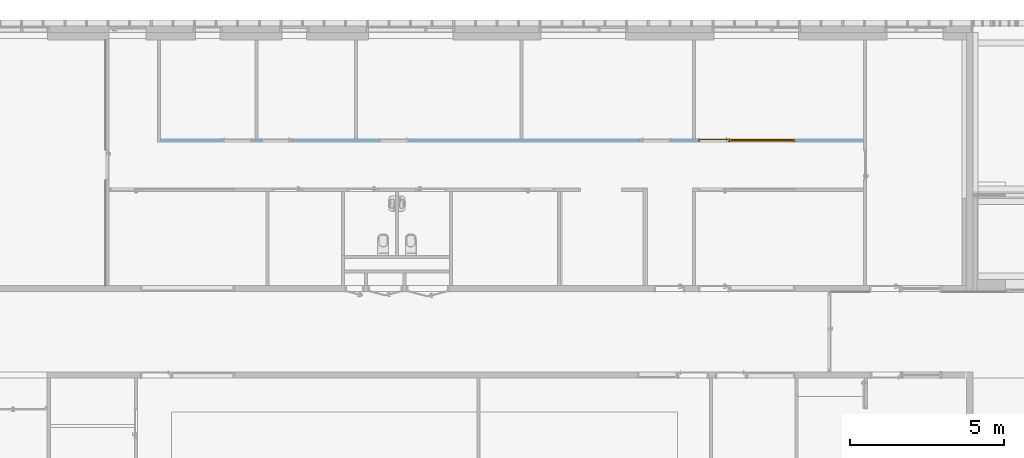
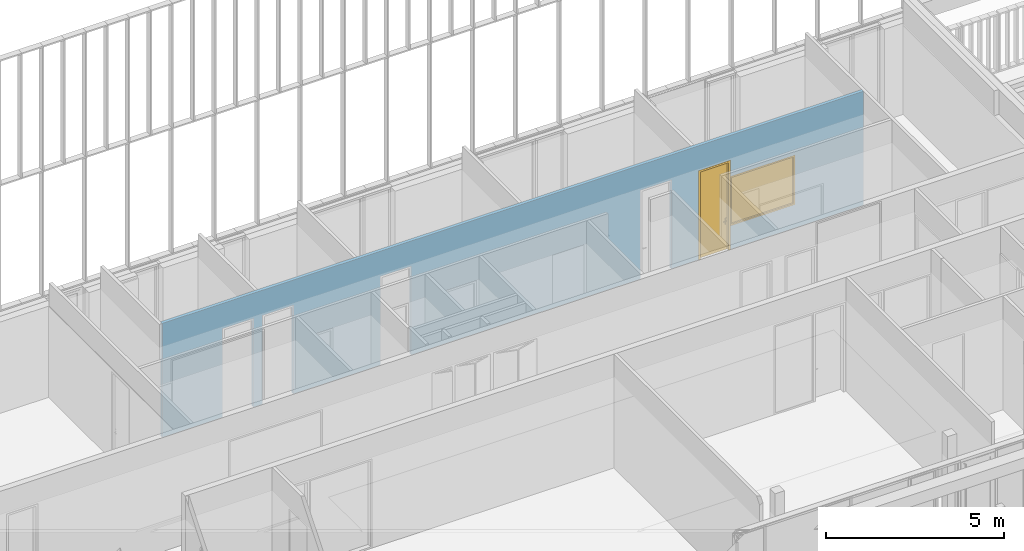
# One storey, part 155 of 240: 1 door, 1 window, 6 openings, plus 1 element that does not belong to this part.
"""IFC2X3 building model written with IfcOpenShell, lengths in centimetres."""

import ifcopenshell
import ifcopenshell.guid

model = None  # the IFC model being written
_history = None  # IfcOwnerHistory: only IFC2X3 demands one
_inside = {}  # id of a spatial element -> (the spatial element, [elements in it])
_under = {}  # id of a project, library or spatial element -> (it, [spatial elements below it])
_declared = {}  # id of a project -> (the project, [libraries it declares])
_typed = {}  # id of a type object -> (the type object, [elements of that type])
_made_of = {}  # id of a material, layer set ... -> (it, [elements and type objects made of it])


def new_model(schema):
    """Start an empty IFC model of exactly this schema.

    Asked for "IFC4X3", IfcOpenShell would pick the latest addendum, in which some entities
    have other attributes; the version numbers below select the first issue.
    IFC2X3 requires an IfcOwnerHistory on every rooted entity: one is made here for all.
    """
    global model, _history
    if schema == "IFC4X3":
        model = ifcopenshell.file(schema_version=(4, 3, 0, 0))
    else:
        model = ifcopenshell.file(schema=schema)
    _inside.clear()
    _under.clear()
    _declared.clear()
    _typed.clear()
    _made_of.clear()
    _history = None
    if model.schema == "IFC2X3":
        org = make("IfcOrganization", Name="unknown")
        user = make(
            "IfcPersonAndOrganization",
            ThePerson=make("IfcPerson", FamilyName="unknown"),
            TheOrganization=org,
        )
        app = make(
            "IfcApplication",
            ApplicationDeveloper=org,
            Version="unknown",
            ApplicationFullName="unknown",
            ApplicationIdentifier="unknown",
        )
        _history = make(
            "IfcOwnerHistory",
            OwningUser=user,
            OwningApplication=app,
            ChangeAction="ADDED",
            CreationDate=0,
        )
    return model


def make(cls, **values):
    """One entity of the class cls with the attributes given. An attribute that is None is left unset."""
    return model.create_entity(
        cls, **{name: value for name, value in values.items() if value is not None}
    )


def entity(cls, *values):
    """Any entity or typed value of the class cls, its attributes in the order of the schema. None: left unset."""
    e = model.create_entity(cls)
    for i, value in enumerate(values):
        if value is not None:
            e[i] = value
    return e


def rooted(cls, **values):
    """An entity with a GlobalId (a new one), such as an element, a storey or a relation."""
    return make(cls, GlobalId=ifcopenshell.guid.new(), OwnerHistory=_history, **values)


def si_unit(unit_type, name, prefix=None):
    """IfcSIUnit, for example si_unit("LENGTHUNIT", "METRE", prefix="MILLI")."""
    return make("IfcSIUnit", UnitType=unit_type, Prefix=prefix, Name=name)


def converted_unit(unit_type, name, factor, base, dimensions=None, offset=None):
    """IfcConversionBasedUnit, such as the inch: factor (a typed value) times the base unit."""
    return make(
        "IfcConversionBasedUnit"
        if offset is None
        else "IfcConversionBasedUnitWithOffset",
        ConversionOffset=offset,
        Dimensions=None
        if dimensions is None
        else entity("IfcDimensionalExponents", *dimensions),
        UnitType=unit_type,
        Name=name,
        ConversionFactor=make(
            "IfcMeasureWithUnit", ValueComponent=factor, UnitComponent=base
        ),
    )


def derived_unit(unit_type, elements):
    """IfcDerivedUnit: a product of units, each with its exponent."""
    return make(
        "IfcDerivedUnit",
        Elements=[
            make("IfcDerivedUnitElement", Unit=unit, Exponent=power)
            for unit, power in elements
        ],
        UnitType=unit_type,
    )


def assignment(units):
    """IfcUnitAssignment: the units of a project."""
    return None if units is None else make("IfcUnitAssignment", Units=units)


def point(xyz):
    """IfcCartesianPoint."""
    return None if xyz is None else make("IfcCartesianPoint", Coordinates=xyz)


def direction(xyz):
    """IfcDirection."""
    return None if xyz is None else make("IfcDirection", DirectionRatios=xyz)


def frame(location, z_axis=None, x_axis=None):
    """IfcAxis2Placement3D, a coordinate frame: its origin and axes. An axis left out is left unset."""
    return make(
        "IfcAxis2Placement3D",
        Location=point(location),
        Axis=direction(z_axis),
        RefDirection=direction(x_axis),
    )


def frame_2d(location, x_axis=None):
    """IfcAxis2Placement2D, a coordinate frame in the plane: its origin and x axis."""
    return make(
        "IfcAxis2Placement2D", Location=point(location), RefDirection=direction(x_axis)
    )


def origin():
    """The frame at (0, 0, 0) with its axes left unset."""
    return frame((0.0, 0.0, 0.0))


def place(relative_to, where):
    """IfcLocalPlacement: puts the frame where relative to a parent placement (None: the world)."""
    return make(
        "IfcLocalPlacement", PlacementRelTo=relative_to, RelativePlacement=where
    )


def context(
    kind, dimensions, precision=None, world=None, true_north=None, identifier=None
):
    """IfcGeometricRepresentationContext, for example the 3D "Model" context."""
    return make(
        "IfcGeometricRepresentationContext",
        ContextIdentifier=identifier,
        ContextType=kind,
        CoordinateSpaceDimension=dimensions,
        Precision=precision,
        WorldCoordinateSystem=world,
        TrueNorth=true_north,
    )


def subcontext(parent, identifier, kind, view, scale=None):
    """IfcGeometricRepresentationSubContext, for example "Body" below "Model"."""
    return make(
        "IfcGeometricRepresentationSubContext",
        ContextIdentifier=identifier,
        ContextType=kind,
        ParentContext=parent,
        TargetScale=scale,
        TargetView=view,
    )


def project(units=None, contexts=None):
    """IfcProject with its units and contexts."""
    return rooted(
        "IfcProject",
        Name="project",
        RepresentationContexts=contexts,
        UnitsInContext=assignment(units),
    )


def spatial(cls, under=None, at=None, **own):
    """A site, building, storey or space (cls), placed at a placement, below another one or the project."""
    s = rooted(cls, ObjectPlacement=at, **own)
    if under is not None:
        _under.setdefault(under.id(), (under, []))[1].append(s)
    return s


def polyline(points):
    """IfcPolyline through the points."""
    return make("IfcPolyline", Points=[point(p) for p in points])


def profile(cls, at=None, kind="AREA", **sizes):
    """A parametric profile (cls). Its sizes go by their IFC names, for example OverallWidth=200.0."""
    return make(cls, ProfileType=kind, Position=at, **sizes)


def rectangle(**sizes):
    """IfcRectangleProfileDef."""
    return profile("IfcRectangleProfileDef", **sizes)


def extrude(swept, where, along, depth):
    """IfcExtrudedAreaSolid: the profile swept, set in the frame where, extruded along a direction by depth."""
    return make(
        "IfcExtrudedAreaSolid",
        SweptArea=swept,
        Position=where,
        ExtrudedDirection=direction(along),
        Depth=depth,
    )


def clip(a, b, op="DIFFERENCE"):
    """IfcBooleanClippingResult: the solid a cut by the half space b."""
    return make(
        "IfcBooleanClippingResult", Operator=op, FirstOperand=a, SecondOperand=b
    )


def bounded_halfspace(plane, agree, where, boundary):
    """IfcPolygonalBoundedHalfSpace: a half space limited to a polygon's prism."""
    return make(
        "IfcPolygonalBoundedHalfSpace",
        BaseSurface=make("IfcPlane", Position=plane),
        AgreementFlag=agree,
        Position=where,
        PolygonalBoundary=boundary,
    )


def faces_of(points, faces, orient=None, outer=None):
    """IfcFace entities. A face is a list of loops; a loop is a list of indices into points, from 0.

    orient and outer hold one flag for each loop. By default every Orientation is true, the
    first loop of a face is its IfcFaceOuterBound and the others are IfcFaceBound.
    """
    made = []
    for i, loops in enumerate(faces):
        bounds = []
        for j, loop in enumerate(loops):
            is_outer = j == 0 if outer is None else outer[i][j]
            bounds.append(
                make(
                    "IfcFaceOuterBound" if is_outer else "IfcFaceBound",
                    Bound=make("IfcPolyLoop", Polygon=[points[k] for k in loop]),
                    Orientation=True if orient is None else orient[i][j],
                )
            )
        made.append(make("IfcFace", Bounds=bounds))
    return made


def faceted_brep(points, faces, orient=None, outer=None, voids=None):
    """IfcFacetedBrep: a solid bounded by flat faces; with voids (closed shells), ...WithVoids."""
    shared = [point(p) for p in points]
    hull = make("IfcClosedShell", CfsFaces=faces_of(shared, faces, orient, outer))
    if voids is None:
        return make("IfcFacetedBrep", Outer=hull)
    return make(
        "IfcFacetedBrepWithVoids",
        Outer=hull,
        Voids=[
            make(cls, CfsFaces=faces_of(shared, fs, o, b)) for cls, fs, o, b in voids
        ],
    )


def shape(context_of_items, identifier, shape_type, items):
    """IfcShapeRepresentation: the items that make up one representation, for example the "Body"."""
    return make(
        "IfcShapeRepresentation",
        ContextOfItems=context_of_items,
        RepresentationIdentifier=identifier,
        RepresentationType=shape_type,
        Items=items,
    )


def source(mapping_origin, context_of_items, identifier, shape_type, items):
    """IfcRepresentationMap: a shape defined once, which mapped items show again and again."""
    return make(
        "IfcRepresentationMap",
        MappingOrigin=mapping_origin,
        MappedRepresentation=shape(context_of_items, identifier, shape_type, items),
    )


def transform(
    local_origin,
    x_axis=None,
    y_axis=None,
    z_axis=None,
    scale=None,
    scale2=None,
    scale3=None,
    uniform=True,
):
    """IfcCartesianTransformationOperator3D, or its non-uniform kind. x_axis, y_axis, z_axis: its Axis1, 2, 3."""
    if uniform:
        return make(
            "IfcCartesianTransformationOperator3D",
            Axis1=direction(x_axis),
            Axis2=direction(y_axis),
            LocalOrigin=point(local_origin),
            Scale=scale,
            Axis3=direction(z_axis),
        )
    return make(
        "IfcCartesianTransformationOperator3DnonUniform",
        Axis1=direction(x_axis),
        Axis2=direction(y_axis),
        LocalOrigin=point(local_origin),
        Scale=scale,
        Axis3=direction(z_axis),
        Scale2=scale2,
        Scale3=scale3,
    )


def mapped(mapping_source, mapping_target):
    """IfcMappedItem: shows the shape of a source again, moved by a transform."""
    return make(
        "IfcMappedItem", MappingSource=mapping_source, MappingTarget=mapping_target
    )


def material(Name=None, Category=None):
    """IfcMaterial."""
    return make("IfcMaterial", Name=Name, Category=Category)


def material_list(materials):
    """IfcMaterialList."""
    return make("IfcMaterialList", Materials=materials)


def layer(
    of_material, thickness, ventilated=None, Name=None, Category=None, Priority=None
):
    """IfcMaterialLayer: one layer of a wall or slab, of a material (None: an air gap)."""
    return make(
        "IfcMaterialLayer",
        Material=of_material,
        LayerThickness=thickness,
        IsVentilated=ventilated,
        Name=Name,
        Category=Category,
        Priority=Priority,
    )


def layer_set(layers, Name=None):
    """IfcMaterialLayerSet."""
    return make("IfcMaterialLayerSet", MaterialLayers=layers, LayerSetName=Name)


def layer_usage(for_layer_set, set_direction, sense, offset, extent=None):
    """IfcMaterialLayerSetUsage: how a layer set lies in its element."""
    return make(
        "IfcMaterialLayerSetUsage",
        ForLayerSet=for_layer_set,
        LayerSetDirection=set_direction,
        DirectionSense=sense,
        OffsetFromReferenceLine=offset,
        ReferenceExtent=extent,
    )


def made_of(thing, what):
    """Note that an element or type object is made of a material, layer set ...; save() writes the relation."""
    if what is not None:
        _made_of.setdefault(what.id(), (what, []))[1].append(thing)
    return thing


def type_object(cls, material=None, **own):
    """A type object (cls), such as IfcWallType, which elements share."""
    return made_of(rooted(cls, **own), material)


def type_shapes(of_type, sources):
    """Give a type object the sources (RepresentationMaps) that its elements show as mapped items."""
    of_type.RepresentationMaps = sources


def element(
    cls,
    number,
    at=None,
    inside=None,
    cuts=None,
    type_object=None,
    material=None,
    context=None,
    identifier="Body",
    shape_type=None,
    held_by="IfcProductDefinitionShape",
    body=None,
    shapes=None,
    **own,
):
    """One element of the class cls, such as IfcWall. Its Tag is "e" and its number.

    at: its placement. inside: the storey or other place that contains it. cuts: it is an
    opening in that element (IfcRelVoidsElement). A single representation is given by context,
    identifier, shape_type and body (its items); several are given by shapes. held_by: the class
    of the entity that holds the representations. save() writes the other relations.
    """
    e = rooted(cls, Tag="e%d" % number, ObjectPlacement=at, **own)
    if body is not None:
        shapes = [shape(context, identifier, shape_type, body)]
    if shapes is not None:
        e.Representation = make(held_by, Representations=shapes)
    if inside is not None:
        _inside.setdefault(inside.id(), (inside, []))[1].append(e)
    if cuts is not None:
        rooted(
            "IfcRelVoidsElement", RelatingBuildingElement=cuts, RelatedOpeningElement=e
        )
    if type_object is not None:
        _typed.setdefault(type_object.id(), (type_object, []))[1].append(e)
    return made_of(e, material)


def fill(opening, filler):
    """IfcRelFillsElement: the door or window that sits in an opening."""
    return rooted(
        "IfcRelFillsElement",
        RelatingOpeningElement=opening,
        RelatedBuildingElement=filler,
    )


def aggregate(whole, parts):
    """IfcRelAggregates: a whole, such as a stair, and the parts it consists of."""
    return rooted("IfcRelAggregates", RelatingObject=whole, RelatedObjects=parts)


def save(model, path):
    """Write the relations noted so far, then the file.

    IfcRelAggregates (storeys below a building ...), IfcRelContainedInSpatialStructure (elements
    in a storey), IfcRelDefinesByType, IfcRelAssociatesMaterial and IfcRelDeclares: one each for
    every whole, place, type object, material and project.
    """
    for whole, parts in _under.values():
        aggregate(whole, parts)
    for where, things in _inside.values():
        rooted(
            "IfcRelContainedInSpatialStructure",
            RelatedElements=things,
            RelatingStructure=where,
        )
    for kind, things in _typed.values():
        rooted("IfcRelDefinesByType", RelatedObjects=things, RelatingType=kind)
    for what, things in _made_of.values():
        rooted("IfcRelAssociatesMaterial", RelatedObjects=things, RelatingMaterial=what)
    for by, libraries in _declared.values():
        rooted("IfcRelDeclares", RelatingContext=by, RelatedDefinitions=libraries)
    model.write(path)


model = new_model("IFC2X3")

# Units and contexts
model_context = context("Model", 3, precision=0.001, world=origin(), true_north=direction((6.12303176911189e-17, 1.0)))
body_context = subcontext(model_context, "Body", "Model", "MODEL_VIEW")
ifc_project = project(units=[si_unit("LENGTHUNIT", "METRE", prefix="CENTI"), si_unit("AREAUNIT", "SQUARE_METRE"), si_unit("VOLUMEUNIT", "CUBIC_METRE"), converted_unit("PLANEANGLEUNIT", "DEGREE", entity("IfcRatioMeasure", 0.0174532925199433), si_unit("PLANEANGLEUNIT", "RADIAN"), dimensions=[0, 0, 0, 0, 0, 0, 0]), si_unit("MASSUNIT", "GRAM", prefix="KILO"), derived_unit("MASSDENSITYUNIT", [(si_unit("MASSUNIT", "GRAM", prefix="KILO"), 1), (si_unit("LENGTHUNIT", "METRE"), -3)]), si_unit("TIMEUNIT", "SECOND"), si_unit("FREQUENCYUNIT", "HERTZ"), si_unit("THERMODYNAMICTEMPERATUREUNIT", "DEGREE_CELSIUS"), derived_unit("THERMALTRANSMITTANCEUNIT", [(si_unit("MASSUNIT", "GRAM", prefix="KILO"), 1), (si_unit("THERMODYNAMICTEMPERATUREUNIT", "KELVIN"), -1), (si_unit("TIMEUNIT", "SECOND"), -3)]), derived_unit("VOLUMETRICFLOWRATEUNIT", [(si_unit("LENGTHUNIT", "METRE"), 3), (si_unit("TIMEUNIT", "SECOND"), -1)]), si_unit("ELECTRICCURRENTUNIT", "AMPERE"), si_unit("ELECTRICVOLTAGEUNIT", "VOLT"), si_unit("POWERUNIT", "WATT"), si_unit("FORCEUNIT", "NEWTON", prefix="KILO"), si_unit("ILLUMINANCEUNIT", "LUX"), si_unit("LUMINOUSFLUXUNIT", "LUMEN"), si_unit("LUMINOUSINTENSITYUNIT", "CANDELA"), derived_unit("USERDEFINED", [(si_unit("MASSUNIT", "GRAM", prefix="KILO"), -1), (si_unit("LENGTHUNIT", "METRE"), -2), (si_unit("TIMEUNIT", "SECOND"), 3), (si_unit("LUMINOUSFLUXUNIT", "LUMEN"), 1)]), derived_unit("LINEARVELOCITYUNIT", [(si_unit("LENGTHUNIT", "METRE"), 1), (si_unit("TIMEUNIT", "SECOND"), -1)]), si_unit("PRESSUREUNIT", "PASCAL"), derived_unit("USERDEFINED", [(si_unit("LENGTHUNIT", "METRE"), -2), (si_unit("MASSUNIT", "GRAM", prefix="KILO"), 1), (si_unit("TIMEUNIT", "SECOND"), -2)])], contexts=[model_context])

# Site, building, storey
site_placement = place(None, frame((-2781.94577612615, 7442.24238424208, 0.0)))
site = spatial("IfcSite", under=ifc_project, at=site_placement, Name="Default", CompositionType="ELEMENT")
building_placement = place(site_placement, origin())
building = spatial("IfcBuilding", under=site, at=building_placement, CompositionType="ELEMENT")
storey_placement = place(building_placement, origin())
storey = spatial("IfcBuildingStorey", under=building, at=storey_placement, Name="N00 - COO", CompositionType="ELEMENT", Elevation=0.0)

# Wall, openings, door, window
ifc_material_1 = material(Name="01 - Enduit/Plâtre")
ifc_layer_1 = layer(ifc_material_1, 1.3)
ifc_material_2 = material(Name="00 - Isolant")
ifc_layer_2 = layer(ifc_material_2, 7.4)
ifc_layer_3 = layer(ifc_material_1, 1.3)
ifc_layer_set = layer_set([ifc_layer_1, ifc_layer_2, ifc_layer_3], Name="Mur de base:06 - cloisons - Ba13 10cm")
ifc_layer_usage = layer_usage(ifc_layer_set, "AXIS2", "NEGATIVE", 5.0)
wall_type = type_object("IfcWallType", Name="Mur de base:06 - cloisons - Ba13 10cm", PredefinedType="STANDARD", material=ifc_layer_set)
wall_placement = place(building_placement, frame((-5122.49987760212, -340.0, 0.0), z_axis=(0.0, 0.0, 1.0), x_axis=(-1.0, 0.0, 0.0)))
wall = element("IfcWallStandardCase", 1, at=wall_placement, inside=storey, type_object=wall_type, material=ifc_layer_usage, Name="Mur de base:06 - cloisons - Ba13 10cm", ObjectType="Mur de base:06 - cloisons - Ba13 10cm", context=body_context, shape_type="Clipping", body=[
    clip(extrude(rectangle(XDim=2276.75, YDim=10.0, at=frame_2d((1138.375, -3.5527136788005e-15), x_axis=(-1.0, 0.0))), origin(), (0.0, 0.0, 1.0), 391.0), bounded_halfspace(frame((0.0, -5.0, 391.0), z_axis=(0.0, 0.0, -1.0), x_axis=(0.0, -1.0, 0.0)), True, frame((0.0, -5.0, 391.0)), polyline([(0.0, 0.0), (544.0, 0.0), (554.0, 0.0), (1103.0, 0.0), (1113.0, 0.0), (1639.0, 0.0), (1649.0, 0.0), (1961.0, 0.0), (1971.0, 0.0), (2276.75, 0.0), (2276.75, 10.0), (0.0, 10.0), (0.0, 0.0)]))),
])
opening_1_placement = place(wall_placement, frame((2081.0, 5.0, 0.0)))
element("IfcOpeningElement", 2, at=opening_1_placement, cuts=wall, Name="Int. Simple:PV (0.93m x 3.00m):1", ObjectType="Opening", context=body_context, shape_type="SweptSolid", body=[
    extrude(rectangle(XDim=304.500000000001, YDim=99.9999999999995, at=frame_2d((152.250000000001, 49.9999999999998), x_axis=(1.0, 0.0))), frame((0.0, 0.0, 0.0), z_axis=(0.0, -1.0, 0.0), x_axis=(0.0, 0.0, 1.0)), (0.0, 0.0, 1.0), 10.0),
])
opening_2_placement = place(wall_placement, frame((1951.0, 5.0, 0.0)))
element("IfcOpeningElement", 3, at=opening_2_placement, cuts=wall, Name="Int. Simple:PV (0.93m x 3.00m):1", ObjectType="Opening", context=body_context, shape_type="SweptSolid", body=[
    extrude(rectangle(XDim=304.500000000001, YDim=99.9999999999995, at=frame_2d((152.250000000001, 50.0), x_axis=(1.0, 0.0))), frame((0.0, 0.0, 0.0), z_axis=(0.0, -1.0, 0.0), x_axis=(0.0, 0.0, 1.0)), (0.0, 0.0, 1.0), 10.0),
])
opening_3_placement = place(wall_placement, frame((1569.0, 5.0, 0.0)))
element("IfcOpeningElement", 4, at=opening_3_placement, cuts=wall, Name="Int. Simple:PV (0.93m x 3.00m):1", ObjectType="Opening", context=body_context, shape_type="SweptSolid", body=[
    extrude(rectangle(XDim=304.500000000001, YDim=99.9999999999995, at=frame_2d((152.250000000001, 50.0), x_axis=(1.0, 0.0))), frame((0.0, 0.0, 0.0), z_axis=(0.0, -1.0, 0.0), x_axis=(0.0, 0.0, 1.0)), (0.0, 0.0, 1.0), 10.0),
])
opening_4_placement = place(wall_placement, frame((724.0, 5.0, 0.0)))
element("IfcOpeningElement", 5, at=opening_4_placement, cuts=wall, Name="Int. Simple:PV (0.93m x 3.00m):1", ObjectType="Opening", context=body_context, shape_type="SweptSolid", body=[
    extrude(rectangle(XDim=304.500000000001, YDim=99.9999999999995, at=frame_2d((152.250000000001, 49.9999999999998), x_axis=(1.0, 0.0))), frame((0.0, 0.0, 0.0), z_axis=(0.0, -1.0, 0.0), x_axis=(0.0, 0.0, 1.0)), (0.0, 0.0, 1.0), 10.0),
])
opening_5_placement = place(wall_placement, frame((534.0, 5.0, 0.0)))
opening_5 = element("IfcOpeningElement", 6, at=opening_5_placement, cuts=wall, Name="Int. Simple:PV (0.93m x 3.00m):1", ObjectType="Opening", context=body_context, shape_type="SweptSolid", body=[
    extrude(rectangle(XDim=304.500000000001, YDim=99.9999999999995, at=frame_2d((152.250000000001, 50.0), x_axis=(1.0, 0.0))), frame((0.0, 0.0, 0.0), z_axis=(0.0, -1.0, 0.0), x_axis=(0.0, 0.0, 1.0)), (0.0, 0.0, 1.0), 10.0),
])
opening_6_placement = place(wall_placement, frame((222.0, -5.0, 80.0)))
opening_6 = element("IfcOpeningElement", 7, at=opening_6_placement, cuts=wall, Name="châssis intérieur vitré:châssis intérieur vitré (h=170):1", ObjectType="Opening", context=body_context, shape_type="SweptSolid", body=[
    extrude(rectangle(XDim=170.0, YDim=211.999999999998, at=frame_2d((84.9999999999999, 105.999999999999), x_axis=(1.0, 0.0))), frame((0.0, 0.0, 0.0), z_axis=(0.0, 1.0, 0.0), x_axis=(0.0, 0.0, 1.0)), (0.0, 0.0, 1.0), 10.0),
])
ifc_material_3 = material(Name="Finition Peinture - Blanc satiné")
ifc_material_4 = material(Name="Bois - Panneau de porte")
ifc_material_5 = material(Name="Bois - Cadre de porte")
ifc_material_list_1 = material_list([ifc_material_3, ifc_material_4, ifc_material_5])
ifc_material_list_2 = material_list([ifc_material_3, ifc_material_4, ifc_material_5])
door_style = type_object("IfcDoorStyle", Name="PV (0.93m x 3.00m)", ConstructionType="NOTDEFINED", OperationType="SINGLE_SWING_LEFT", ParameterTakesPrecedence=False, Sizeable=False, material=ifc_material_list_2)
shared_shape_1 = source(origin(), body_context, "Body", "Brep", [
    faceted_brep([(10.5352761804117, -0.500000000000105, 86.6003983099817), (11.5000000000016, -0.500000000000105, 87.0), (11.5000000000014, -0.500000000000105, 108.0), (10.5352761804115, -0.500000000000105, 108.399601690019), (9.50000000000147, -0.500000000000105, 108.535898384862), (8.46472381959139, -0.500000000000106, 108.399601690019), (7.50000000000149, -0.500000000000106, 108.0), (7.50000000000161, -0.500000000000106, 87.0), (8.46472381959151, -0.500000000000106, 86.6003983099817), (9.50000000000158, -0.500000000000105, 86.464101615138), (10.5352761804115, 0.0, 108.399601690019), (11.5000000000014, 0.0, 108.0), (11.5000000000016, 0.0, 87.0), (10.5352761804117, 0.0, 86.6003983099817), (9.50000000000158, 0.0, 86.464101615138), (8.46472381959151, 0.0, 86.6003983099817), (7.50000000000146, 0.0, 87.0), (7.50000000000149, 0.0, 108.0), (8.46472381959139, 0.0, 108.399601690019), (9.50000000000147, 0.0, 108.535898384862)], [[[0, 1, 2, 3, 4, 5, 6, 7, 8, 9]], [[10, 11, 12, 13, 14, 15, 16, 17, 18, 19]], [[16, 15, 8, 7]], [[8, 15, 14, 9]], [[14, 13, 0, 9]], [[13, 12, 1, 0]], [[2, 1, 12, 11]], [[11, 10, 3, 2]], [[3, 10, 19, 4]], [[19, 18, 5, 4]], [[18, 17, 6, 5]], [[7, 6, 17, 16]]]),
    faceted_brep([(10.5352761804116, 4.0, 86.6003983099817), (11.5000000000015, 4.0, 87.0), (11.5000000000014, 4.0, 108.0), (10.5352761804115, 4.0, 108.399601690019), (9.50000000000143, 4.0, 108.535898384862), (8.46472381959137, 4.0, 108.399601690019), (7.50000000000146, 4.0, 108.0), (7.50000000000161, 4.0, 87.0), (8.46472381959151, 4.0, 86.6003983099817), (9.50000000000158, 4.0, 86.464101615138), (10.5352761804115, 4.49999999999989, 108.399601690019), (11.5000000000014, 4.49999999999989, 108.0), (11.5000000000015, 4.49999999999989, 87.0), (10.5352761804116, 4.49999999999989, 86.6003983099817), (9.50000000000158, 4.49999999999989, 86.464101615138), (8.46472381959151, 4.49999999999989, 86.6003983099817), (7.50000000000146, 4.49999999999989, 87.0), (7.50000000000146, 4.49999999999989, 108.0), (8.46472381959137, 4.49999999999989, 108.399601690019), (9.50000000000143, 4.49999999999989, 108.535898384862)], [[[0, 1, 2, 3, 4, 5, 6, 7, 8, 9]], [[10, 11, 12, 13, 14, 15, 16, 17, 18, 19]], [[11, 10, 3, 2]], [[3, 10, 19, 4]], [[19, 18, 5, 4]], [[18, 17, 6, 5]], [[7, 6, 17, 16]], [[16, 15, 8, 7]], [[8, 15, 14, 9]], [[14, 13, 0, 9]], [[13, 12, 1, 0]], [[2, 1, 12, 11]]]),
    faceted_brep([(9.29747013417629, -0.500000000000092, 100.778044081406), (9.70252986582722, -0.50000000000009, 100.778044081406), (10.1000000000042, -0.500000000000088, 100.699999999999), (10.1000000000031, -0.500000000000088, 99.3000000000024), (9.7025298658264, -0.50000000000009, 99.2219559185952), (9.29747013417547, -0.500000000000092, 99.221955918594), (8.8999999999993, -0.500000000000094, 99.2999999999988), (8.89999999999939, -0.500000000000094, 100.7), (8.89999999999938, -3.26509507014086, 100.7), (9.29747013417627, -3.10045754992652, 100.778044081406), (10.9023585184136, -4.70534593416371, 100.778044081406), (11.0701397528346, -4.30028620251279, 100.778044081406), (9.7025298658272, -2.93267631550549, 100.778044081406), (10.1000000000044, -2.76803879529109, 100.7), (10.1000000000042, -2.76803879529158, 99.3000000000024), (9.7025298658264, -2.93267631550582, 99.2219559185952), (11.0701397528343, -4.30028620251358, 99.2219559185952), (10.9023585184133, -4.70534593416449, 99.221955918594), (9.29747013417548, -3.10045754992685, 99.221955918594), (8.89999999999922, -3.26509507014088, 99.2999999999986), (10.7377209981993, -5.10281606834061, 100.7), (11.2347772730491, -3.90281606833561, 100.7), (11.2347772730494, -3.90281606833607, 99.3000000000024), (10.7377209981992, -5.10281606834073, 99.2999999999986), (19.5018640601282, -5.10281606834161, 99.2999999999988), (19.5018640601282, -4.70534593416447, 99.221955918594), (19.5018640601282, -4.30028620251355, 99.2219559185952), (19.5018640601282, -3.9028160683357, 99.3000000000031), (19.5018640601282, -3.90281606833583, 100.7), (19.5018640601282, -4.30028620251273, 100.778044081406), (19.5018640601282, -4.70534593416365, 100.778044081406), (19.5018640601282, -5.10281606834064, 100.699999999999), (14.7307697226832, -5.10281606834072, 100.7), (15.2860019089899, -4.5028160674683, 100.78786867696), (15.3683206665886, -3.9028160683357, 100.7), (15.3683206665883, -3.9028160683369, 99.3000000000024), (15.2860018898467, -4.50281607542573, 99.2121313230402), (14.7307700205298, -5.10281606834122, 99.2999999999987)], [[[0, 1, 2, 3, 4, 5, 6, 7]], [[8, 9, 0, 7]], [[9, 10, 11, 12, 1, 0]], [[12, 13, 2, 1]], [[3, 2, 13, 14]], [[14, 15, 4, 3]], [[15, 16, 17, 18, 5, 4]], [[18, 19, 6, 5]], [[7, 6, 19, 8]], [[20, 10, 9, 8]], [[11, 21, 13, 12]], [[14, 13, 21, 22]], [[22, 16, 15, 14]], [[17, 23, 19, 18]], [[8, 19, 23, 20]], [[24, 25, 26, 27, 28, 29, 30, 31]], [[32, 30, 33]], [[31, 30, 32]], [[10, 20, 32]], [[33, 34, 11]], [[21, 11, 34]], [[34, 29, 28]], [[30, 29, 33]], [[29, 34, 33]], [[10, 32, 33]], [[10, 33, 11]], [[22, 21, 34, 28, 27, 35]], [[35, 26, 36]], [[37, 36, 25]], [[22, 35, 16]], [[35, 27, 26]], [[24, 37, 25]], [[23, 17, 37]], [[37, 17, 36]], [[17, 16, 36]], [[16, 35, 36]], [[25, 36, 26]], [[20, 23, 37, 24, 31, 32]]]),
    faceted_brep([(9.29747013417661, 4.49999999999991, 100.778044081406), (8.89999999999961, 4.4999999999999, 100.7), (8.89999999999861, 4.4999999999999, 99.2999999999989), (9.29747013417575, 4.49999999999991, 99.221955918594), (9.70252986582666, 4.49999999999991, 99.2219559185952), (10.1000000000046, 4.49999999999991, 99.3000000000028), (10.1000000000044, 4.49999999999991, 100.7), (9.70252986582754, 4.49999999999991, 100.778044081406), (10.1000000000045, 6.7485204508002, 99.3000000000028), (10.1000000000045, 6.74852045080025, 100.7), (9.70252986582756, 6.91315797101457, 100.778044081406), (11.083890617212, 8.29451872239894, 100.778044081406), (10.916109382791, 8.69957845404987, 100.778044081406), (9.29747013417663, 7.0809392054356, 100.778044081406), (8.89999999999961, 7.24557672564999, 100.7), (8.89999999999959, 7.2455767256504, 99.2999999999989), (9.29747013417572, 7.08093920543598, 99.221955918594), (10.9161093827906, 8.69957845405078, 99.221955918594), (11.0838906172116, 8.29451872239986, 99.2219559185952), (9.70252986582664, 6.91315797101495, 99.2219559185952), (11.2485281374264, 7.89704858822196, 99.3000000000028), (11.2485281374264, 7.89704858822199, 100.7), (10.7514718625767, 9.09704858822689, 100.7), (10.7514718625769, 9.0970485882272, 99.2999999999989), (19.5045783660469, 7.89704858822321, 99.3000000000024), (19.5045783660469, 8.29451872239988, 99.2219559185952), (19.5045783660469, 8.6995784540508, 99.221955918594), (19.5045783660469, 9.09704858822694, 99.2999999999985), (19.5045783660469, 9.09704858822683, 100.7), (19.5045783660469, 8.69957845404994, 100.778044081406), (19.5045783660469, 8.29451872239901, 100.778044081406), (19.5045783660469, 7.89704858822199, 100.7), (15.3765520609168, 7.89704858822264, 99.3000000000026), (15.3765532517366, 7.89704858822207, 100.7), (15.294234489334, 8.49704858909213, 100.78786867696), (14.7445205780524, 9.09704858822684, 100.7), (14.7445204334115, 9.09704858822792, 99.2999999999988), (15.2942345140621, 8.49704858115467, 99.2121313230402)], [[[0, 1, 2, 3, 4, 5, 6, 7]], [[6, 5, 8, 9]], [[9, 10, 7, 6]], [[10, 11, 12, 13, 0, 7]], [[13, 14, 1, 0]], [[2, 1, 14, 15]], [[15, 16, 3, 2]], [[16, 17, 18, 19, 4, 3]], [[19, 8, 5, 4]], [[9, 8, 20, 21]], [[21, 11, 10, 9]], [[12, 22, 14, 13]], [[15, 14, 22, 23]], [[23, 17, 16, 15]], [[18, 20, 8, 19]], [[24, 25, 26, 27, 28, 29, 30, 31]], [[21, 20, 32, 24, 31, 33]], [[33, 30, 34]], [[35, 34, 29]], [[21, 33, 11]], [[33, 31, 30]], [[28, 35, 29]], [[22, 12, 35]], [[35, 12, 34]], [[12, 11, 34]], [[11, 33, 34]], [[29, 34, 30]], [[22, 35, 28, 27, 36, 23]], [[36, 26, 37]], [[27, 26, 36]], [[17, 23, 36]], [[37, 32, 18]], [[20, 18, 32]], [[32, 25, 24]], [[26, 25, 37]], [[25, 32, 37]], [[17, 36, 37]], [[17, 37, 18]]]),
    faceted_brep([(3.50000000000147, 4.0, 301.0), (96.5000000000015, 4.0, 301.0), (96.5000000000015, 4.0, 0.0), (3.50000000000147, 4.0, 0.0), (3.50000000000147, 0.0, 301.0), (3.50000000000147, 0.0, 0.0), (96.5000000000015, 0.0, 0.0), (96.5000000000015, 0.0, 301.0)], [[[0, 1, 2, 3]], [[4, 5, 6, 7]], [[1, 0, 4, 7]], [[2, 1, 7, 6]], [[3, 2, 6, 5]], [[0, 3, 5, 4]]]),
    faceted_brep([(0.0, 10.0, 0.0), (-1.50000000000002, 10.0, 0.0), (-1.50000000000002, 10.5000000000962, 0.0), (5.0, 10.5000000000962, 0.0), (5.0, 4.0, 0.0), (3.50000000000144, 4.0, 0.0), (3.50000000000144, -0.500000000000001, 0.0), (-1.50000000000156, -0.500000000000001, 0.0), (-1.50000000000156, 0.0, 0.0), (0.0, 0.0, 0.0), (0.0, 10.0, 304.500000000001), (100.0, 10.0, 304.500000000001), (100.0, 10.0, 0.0), (101.5, 10.0, 0.0), (101.5, 10.0, 306.0), (-1.50000000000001, 10.0, 306.0), (-1.50000000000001, 10.5000000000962, 306.0), (101.5, 10.5000000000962, 306.0), (101.5, 10.5000000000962, 0.0), (95.0, 10.5000000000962, 0.0), (95.0, 10.5000000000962, 299.5), (5.0, 10.5000000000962, 299.5), (5.0, 4.0, 299.5), (95.0, 4.0, 299.5), (95.0, 4.0, 0.0), (96.4999999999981, 4.0, 0.0), (96.4999999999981, 4.0, 301.0), (3.50000000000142, 4.0, 301.0), (3.50000000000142, -0.500000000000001, 301.0), (96.4999999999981, -0.500000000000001, 301.0), (96.4999999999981, -0.500000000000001, 0.0), (101.500000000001, -0.500000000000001, 0.0), (101.500000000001, -0.500000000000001, 306.0), (-1.50000000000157, -0.500000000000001, 306.0), (-1.50000000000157, 0.0, 306.0), (101.500000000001, 0.0, 306.0), (101.500000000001, 0.0, 0.0), (100.0, 0.0, 0.0), (100.0, 0.0, 304.500000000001), (0.0, 0.0, 304.500000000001)], [[[0, 1, 2, 3, 4, 5, 6, 7, 8, 9]], [[1, 0, 10, 11, 12, 13, 14, 15]], [[2, 1, 15, 16]], [[3, 2, 16, 17, 18, 19, 20, 21]], [[3, 21, 22, 4]], [[5, 4, 22, 23, 24, 25, 26, 27]], [[5, 27, 28, 6]], [[7, 6, 28, 29, 30, 31, 32, 33]], [[8, 7, 33, 34]], [[9, 8, 34, 35, 36, 37, 38, 39]], [[0, 9, 39, 10]], [[11, 38, 37, 12]], [[12, 37, 36, 31, 30, 25, 24, 19, 18, 13]], [[17, 14, 13, 18]], [[23, 20, 19, 24]], [[29, 26, 25, 30]], [[35, 32, 31, 36]], [[10, 39, 38, 11]], [[16, 15, 14, 17]], [[22, 21, 20, 23]], [[28, 27, 26, 29]], [[34, 33, 32, 35]]]),
])
type_shapes(door_style, [shared_shape_1])
door_placement = place(opening_5_placement, frame((-100.0, -10.0, 0.0)))
door = element("IfcDoor", 8, at=door_placement, inside=storey, type_object=door_style, material=ifc_material_list_1, Name="Int. Simple:PV (0.93m x 3.00m)", ObjectType="Int. Simple:PV (0.93m x 3.00m)", OverallHeight=304.500000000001, OverallWidth=99.9999999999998, context=body_context, shape_type="MappedRepresentation", body=[
    mapped(shared_shape_1, transform((0.0, 0.0, 0.0), scale=1.0)),
])
fill(opening_5, door)
ifc_material_6 = material(Name="Verre")
ifc_material_7 = material(Name="huisserie bois")
ifc_material_list_3 = material_list([ifc_material_6, ifc_material_7])
ifc_material_list_4 = material_list([ifc_material_6, ifc_material_7])
window_style = type_object("IfcWindowStyle", Name="châssis intérieur vitré (h=170)", ConstructionType="NOTDEFINED", OperationType="NOTDEFINED", ParameterTakesPrecedence=False, Sizeable=False, material=ifc_material_list_4)
shared_shape_2 = source(origin(), body_context, "Body", "Brep", [
    faceted_brep([(209.0, 5.0, 167.0), (209.0, 5.0, 3.0), (3.0, 5.0, 3.0), (3.0, 5.0, 167.0), (209.0, 2.0, 167.0), (209.0, 2.0, 3.0), (3.0, 2.0, 3.0), (3.0, 2.0, 167.0)], [[[0, 1, 2, 3]], [[1, 0, 4, 5]], [[2, 1, 5, 6]], [[3, 2, 6, 7]], [[4, 7, 6, 5]], [[0, 3, 7, 4]]]),
    faceted_brep([(209.0, 2.0, 167.0), (209.0, 0.0, 167.0), (209.0, 0.0, 3.0), (209.0, 2.0, 3.0), (207.0, 0.0, 5.0), (5.0, 0.0, 5.0), (5.0, 0.0, 165.0), (207.0, 0.0, 165.0), (3.0, 0.0, 167.0), (3.0, 0.0, 3.0), (3.0, 2.0, 3.0), (3.0, 2.0, 167.0), (207.0, 2.0, 165.0), (5.0, 2.0, 165.0), (5.0, 2.0, 5.0), (207.0, 2.0, 5.0)], [[[0, 1, 2, 3]], [[4, 5, 6, 7], [1, 8, 9, 2]], [[3, 2, 9, 10]], [[3, 10, 11, 0], [12, 13, 14, 15]], [[7, 12, 15, 4]], [[4, 15, 14, 5]], [[10, 9, 8, 11]], [[5, 14, 13, 6]], [[11, 8, 1, 0]], [[6, 13, 12, 7]]], outer=[[True], [False, True], [True], [True, False], [True], [True], [True], [True], [True], [True]]),
    faceted_brep([(207.0, 5.0, 165.0), (207.0, 10.0, 165.0), (207.0, 10.0, 5.0), (207.0, 5.0, 5.0), (212.0, 10.0, 0.0), (0.0, 10.0, 0.0), (0.0, 10.0, 170.0), (212.0, 10.0, 170.0), (5.0, 10.0, 165.0), (5.0, 10.0, 5.0), (5.0, 5.0, 5.0), (5.0, 5.0, 165.0), (209.0, 5.0, 167.0), (3.0, 5.0, 167.0), (3.0, 5.0, 3.0), (209.0, 5.0, 3.0), (209.0, 0.0, 167.0), (209.0, 0.0, 3.0), (3.0, 0.0, 3.0), (3.0, 0.0, 167.0), (212.0, 0.0, 170.0), (0.0, 0.0, 170.0), (0.0, 0.0, 0.0), (212.0, 0.0, 0.0)], [[[0, 1, 2, 3]], [[4, 5, 6, 7], [1, 8, 9, 2]], [[3, 2, 9, 10]], [[3, 10, 11, 0], [12, 13, 14, 15]], [[16, 12, 15, 17]], [[17, 15, 14, 18]], [[17, 18, 19, 16], [20, 21, 22, 23]], [[7, 20, 23, 4]], [[4, 23, 22, 5]], [[10, 9, 8, 11]], [[18, 14, 13, 19]], [[5, 22, 21, 6]], [[11, 8, 1, 0]], [[19, 13, 12, 16]], [[6, 21, 20, 7]]], outer=[[True], [True, False], [True], [False, True], [True], [True], [False, True], [True], [True], [True], [True], [True], [True], [True], [True]]),
])
type_shapes(window_style, [shared_shape_2])
window_placement = place(opening_6_placement, origin())
window = element("IfcWindow", 9, at=window_placement, inside=storey, type_object=window_style, material=ifc_material_list_3, Name="châssis intérieur vitré:châssis intérieur vitré (h=170)", ObjectType="châssis intérieur vitré:châssis intérieur vitré (h=170)", OverallHeight=170.0, OverallWidth=211.999999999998, context=body_context, shape_type="MappedRepresentation", body=[
    mapped(shared_shape_2, transform((0.0, 0.0, 0.0), scale=1.0)),
])
fill(opening_6, window)

save(model, "model.ifc")
